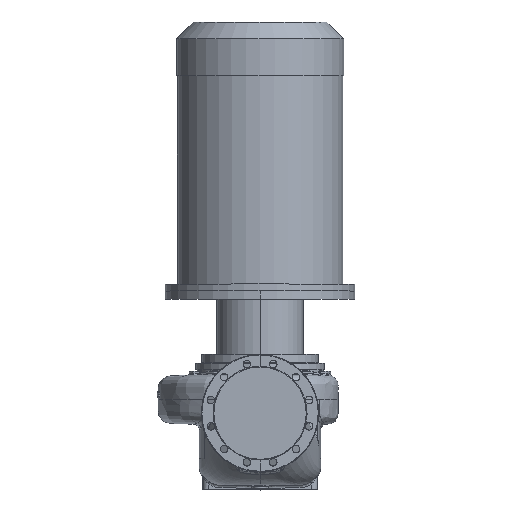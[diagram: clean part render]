
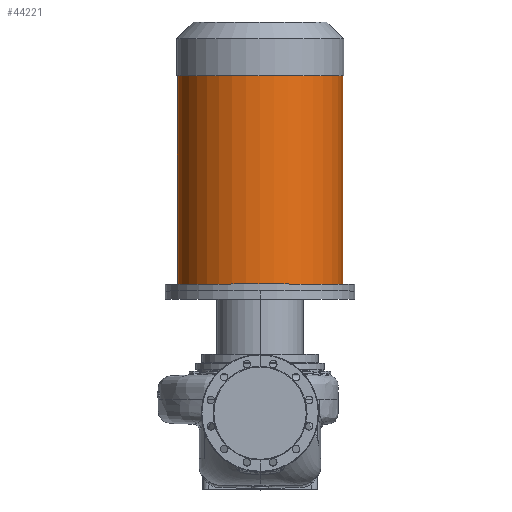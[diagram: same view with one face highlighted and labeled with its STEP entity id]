
A CAD part, top view. The second image highlights one B-rep face of the part: STEP entity #44221.
In plain terms, the highlighted cylindrical face has radius 239.5 mm (diameter 479 mm), a partial arc.
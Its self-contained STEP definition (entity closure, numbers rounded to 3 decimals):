
#1688 = CARTESIAN_POINT ( 'NONE',  ( 239.5, 978.8, 0. ) ) ;
#1964 = AXIS2_PLACEMENT_3D ( 'NONE', #56800, #31727, #7251 ) ;
#2972 = ORIENTED_EDGE ( 'NONE', *, *, #12345, .F. ) ;
#3415 = CARTESIAN_POINT ( 'NONE',  ( -239.5, 978.8, 0. ) ) ;
#7251 = DIRECTION ( 'NONE',  ( -1., 0., 0. ) ) ;
#9593 = VECTOR ( 'NONE', #66738, 1000. ) ;
#10746 = CARTESIAN_POINT ( 'NONE',  ( 239.5, 374.8, 0. ) ) ;
#12345 = EDGE_CURVE ( 'NONE', #32036, #30205, #47539, .T. ) ;
#14045 = DIRECTION ( 'NONE',  ( 0., -1., 0. ) ) ;
#14141 = CYLINDRICAL_SURFACE ( 'NONE', #67390, 239.5 ) ;
#15778 = VERTEX_POINT ( 'NONE', #3415 ) ;
#17996 = AXIS2_PLACEMENT_3D ( 'NONE', #36146, #22602, #60477 ) ;
#22602 = DIRECTION ( 'NONE',  ( 0., -1., 0. ) ) ;
#26537 = ORIENTED_EDGE ( 'NONE', *, *, #70669, .F. ) ;
#30205 = VERTEX_POINT ( 'NONE', #10746 ) ;
#31727 = DIRECTION ( 'NONE',  ( 0., -1., 0. ) ) ;
#32036 = VERTEX_POINT ( 'NONE', #1688 ) ;
#35834 = CARTESIAN_POINT ( 'NONE',  ( 0., 354.8, 0. ) ) ;
#36146 = CARTESIAN_POINT ( 'NONE',  ( 0., 374.8, 0. ) ) ;
#38873 = CARTESIAN_POINT ( 'NONE',  ( -239.5, 374.8, 0. ) ) ;
#41549 = DIRECTION ( 'NONE',  ( -1., 0., 0. ) ) ;
#43692 = LINE ( 'NONE', #57931, #72994 ) ;
#44221 = ADVANCED_FACE ( 'NONE', ( #63924 ), #14141, .T. ) ;
#44869 = ORIENTED_EDGE ( 'NONE', *, *, #72157, .T. ) ;
#45845 = CIRCLE ( 'NONE', #17996, 239.5 ) ;
#47539 = LINE ( 'NONE', #78178, #9593 ) ;
#48534 = ORIENTED_EDGE ( 'NONE', *, *, #53175, .T. ) ;
#53175 = EDGE_CURVE ( 'NONE', #15778, #71671, #43692, .T. ) ;
#55809 = EDGE_LOOP ( 'NONE', ( #2972, #44869, #48534, #26537 ) ) ;
#56800 = CARTESIAN_POINT ( 'NONE',  ( 0., 978.8, 0. ) ) ;
#57931 = CARTESIAN_POINT ( 'NONE',  ( -239.5, 354.8, 0. ) ) ;
#59351 = CIRCLE ( 'NONE', #1964, 239.5 ) ;
#60477 = DIRECTION ( 'NONE',  ( -1., 0., 0. ) ) ;
#63924 = FACE_OUTER_BOUND ( 'NONE', #55809, .T. ) ;
#66163 = DIRECTION ( 'NONE',  ( 0., -1., 0. ) ) ;
#66738 = DIRECTION ( 'NONE',  ( 0., -1., 0. ) ) ;
#67390 = AXIS2_PLACEMENT_3D ( 'NONE', #35834, #66163, #41549 ) ;
#70669 = EDGE_CURVE ( 'NONE', #30205, #71671, #45845, .T. ) ;
#71671 = VERTEX_POINT ( 'NONE', #38873 ) ;
#72157 = EDGE_CURVE ( 'NONE', #32036, #15778, #59351, .T. ) ;
#72994 = VECTOR ( 'NONE', #14045, 1000. ) ;
#78178 = CARTESIAN_POINT ( 'NONE',  ( 239.5, 354.8, 0. ) ) ;
